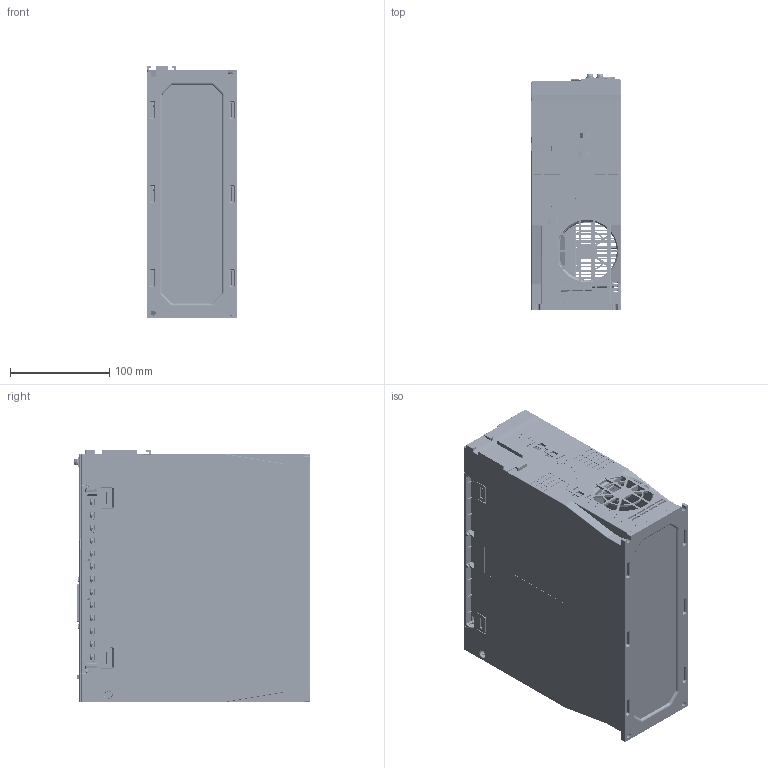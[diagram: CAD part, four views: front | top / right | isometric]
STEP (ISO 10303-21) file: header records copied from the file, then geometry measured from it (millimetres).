
FILE_DESCRIPTION((''),'2;1');
FILE_NAME('AS3-75CAI-FS_ASM','2025-04-11T17:09:05',('Admin'),(''),'CREO PARAMETRIC BY PTC INC, 2020074','CREO PARAMETRIC BY PTC INC, 2020074','');
FILE_SCHEMA(('CONFIG_CONTROL_DESIGN'));
Products named in the file (26): DG78R-B-13P-13-00A_H__RGB1342_1; DG78R-B-13P-13-00A_H__RGB1342_2; DG78R-B-13P-13-00A_H__RGB1342_3; DG78R-B-13P-13-00A_H__RGB1342_4; DG78R-B-13P-13-00A_H__RGB1342_5; DG78R-B-13P-13-00A_H__RGB1342_6; DG78R-B-13P-13-00A_H__RGB1342_7; DG78R-B-13P-13-00A_H__RGB1342_8; DG78R-B-13P-13-00A_H__RGB1342_9; DG78R-B-13P-13-00A_H__RGB134_10; DG78R-B-13P-13-00A_H__RGB134_11; DG78R-B-13P-13-00A_H__RGB134_12; DG78R-B-13P-13-00A_H__RGB134_13; DG78R-B-13P-13-00A_H__RGB134217_ASM; J2_ASM; PCB_ASM; AS3-75CAI-P-2408_131117_ASM; AS3-75CNI-FS-PCB-P_ASM; AS3-30CAI-PCB-C; AS2E-04BAI-COVER; M4X8_GB818_1_1; D4_GB9074_26_1_1; D4_GB9074_24_1_1; M4X8_GB9074_4_ASM_1_ASM; AS3-75CAI; AS3-75CAI-FS_ASM
Assembly tree (26 placements, depth 7):
  AS3-75CAI-FS_ASM
    AS3-75CNI-FS-PCB-P_ASM
      AS3-75CAI-P-2408_131117_ASM
        PCB_ASM
          J2_ASM
            DG78R-B-13P-13-00A_H__RGB134217_ASM
              DG78R-B-13P-13-00A_H__RGB1342_1
              DG78R-B-13P-13-00A_H__RGB1342_2
              DG78R-B-13P-13-00A_H__RGB1342_3
              DG78R-B-13P-13-00A_H__RGB1342_4
              DG78R-B-13P-13-00A_H__RGB1342_5
              DG78R-B-13P-13-00A_H__RGB1342_6
              DG78R-B-13P-13-00A_H__RGB1342_7
              DG78R-B-13P-13-00A_H__RGB1342_8
              DG78R-B-13P-13-00A_H__RGB1342_9
              DG78R-B-13P-13-00A_H__RGB134_10
              DG78R-B-13P-13-00A_H__RGB134_11
              DG78R-B-13P-13-00A_H__RGB134_12
              DG78R-B-13P-13-00A_H__RGB134_13
    AS3-30CAI-PCB-C
    AS2E-04BAI-COVER
    M4X8_GB9074_4_ASM_1_ASM  x2
      M4X8_GB818_1_1
      D4_GB9074_26_1_1
      D4_GB9074_24_1_1
    AS3-75CAI
Bounding box: 90.1 x 237.2 x 254 mm (x, y, z)
Volume: 1104049.7 mm3; surface area: 1027443.8 mm2
Topology: 22 solids, 51 shells, 11833 faces, 33345 edges, 21297 vertices
Faces by surface type: plane 8629, cylinder 2021, cone 421, bspline 302, sphere 210, torus 208, extrusion 42
Entity records: 396809 total; most frequent: CARTESIAN_POINT 93101, ORIENTED_EDGE 65860, DIRECTION 58878, EDGE_CURVE 32930, VECTOR 25974, LINE 25932, VERTEX_POINT 21188, AXIS2_PLACEMENT_3D 16452
